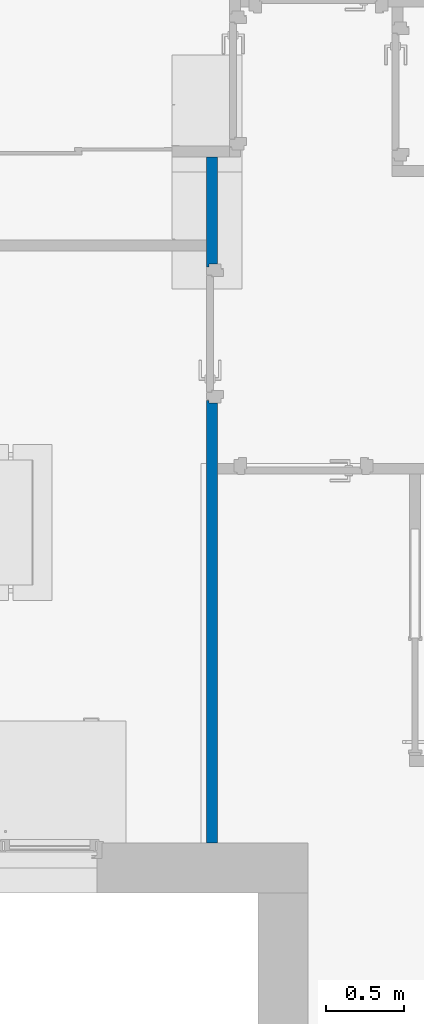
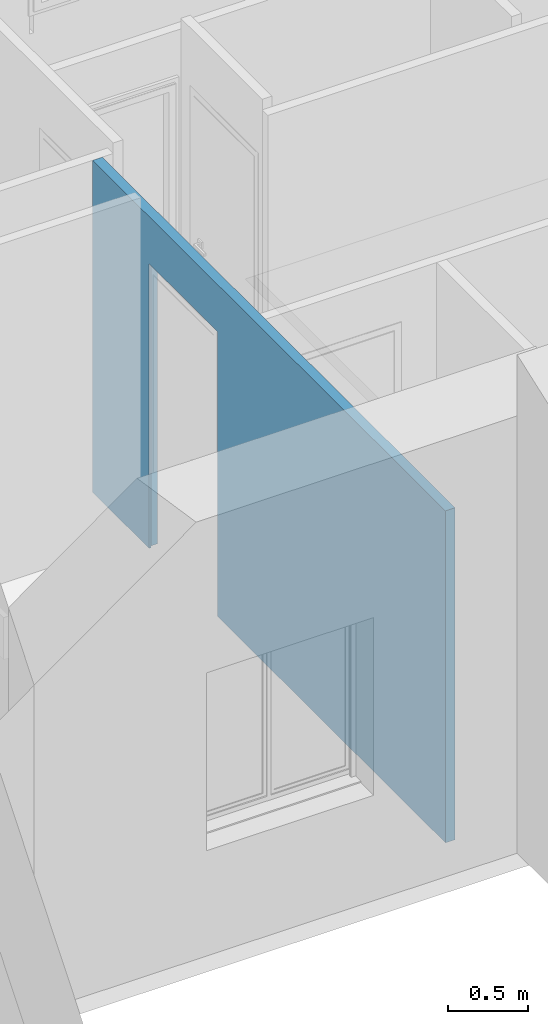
# One storey, part 30 of 61: 1 wall, 1 opening.
"""IFC2X3 building model written with IfcOpenShell, lengths in metres."""

from ifc_helpers import new_model, entity, si_unit, converted_unit, derived_unit, direction, frame, frame_2d, origin, place, context, subcontext, project, spatial, rectangle, extrude, faceted_brep, material, layer, layer_set, layer_usage, type_object, element, save


model = new_model("IFC2X3")

# Units and contexts
model_context = context("Model", 3, precision=1e-05, world=origin(), true_north=direction((6.12303176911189e-17, 1.0)))
body_context = subcontext(model_context, "Body", "Model", "MODEL_VIEW")
ifc_project = project(units=[si_unit("LENGTHUNIT", "METRE"), si_unit("AREAUNIT", "SQUARE_METRE"), si_unit("VOLUMEUNIT", "CUBIC_METRE"), converted_unit("PLANEANGLEUNIT", "DEGREE", entity("IfcRatioMeasure", 0.0174532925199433), si_unit("PLANEANGLEUNIT", "RADIAN"), dimensions=[0, 0, 0, 0, 0, 0, 0]), si_unit("MASSUNIT", "GRAM", prefix="KILO"), derived_unit("MASSDENSITYUNIT", [(si_unit("MASSUNIT", "GRAM", prefix="KILO"), 1), (si_unit("LENGTHUNIT", "METRE"), -3)]), si_unit("TIMEUNIT", "SECOND"), si_unit("FREQUENCYUNIT", "HERTZ"), si_unit("THERMODYNAMICTEMPERATUREUNIT", "DEGREE_CELSIUS"), derived_unit("THERMALTRANSMITTANCEUNIT", [(si_unit("MASSUNIT", "GRAM", prefix="KILO"), 1), (si_unit("THERMODYNAMICTEMPERATUREUNIT", "KELVIN"), -1), (si_unit("TIMEUNIT", "SECOND"), -3)]), derived_unit("VOLUMETRICFLOWRATEUNIT", [(si_unit("LENGTHUNIT", "METRE"), 3), (si_unit("TIMEUNIT", "SECOND"), -1)]), si_unit("ELECTRICCURRENTUNIT", "AMPERE"), si_unit("ELECTRICVOLTAGEUNIT", "VOLT"), si_unit("POWERUNIT", "WATT"), si_unit("FORCEUNIT", "NEWTON", prefix="KILO"), si_unit("ILLUMINANCEUNIT", "LUX"), si_unit("LUMINOUSFLUXUNIT", "LUMEN"), si_unit("LUMINOUSINTENSITYUNIT", "CANDELA"), derived_unit("USERDEFINED", [(si_unit("MASSUNIT", "GRAM", prefix="KILO"), -1), (si_unit("LENGTHUNIT", "METRE"), -2), (si_unit("TIMEUNIT", "SECOND"), 3), (si_unit("LUMINOUSFLUXUNIT", "LUMEN"), 1)]), derived_unit("LINEARVELOCITYUNIT", [(si_unit("LENGTHUNIT", "METRE"), 1), (si_unit("TIMEUNIT", "SECOND"), -1)]), si_unit("PRESSUREUNIT", "PASCAL"), derived_unit("USERDEFINED", [(si_unit("LENGTHUNIT", "METRE"), -2), (si_unit("MASSUNIT", "GRAM", prefix="KILO"), 1), (si_unit("TIMEUNIT", "SECOND"), -2)])], contexts=[model_context])

# Site, building, storey
site_placement = place(None, origin())
site = spatial("IfcSite", under=ifc_project, at=site_placement, Name="Surface", CompositionType="ELEMENT")
building_placement = place(site_placement, origin())
building = spatial("IfcBuilding", under=site, at=building_placement, CompositionType="ELEMENT")
storey_placement = place(building_placement, frame((0.0, 0.0, 2.82)))
storey = spatial("IfcBuildingStorey", under=building, at=storey_placement, Name="ETAGE", CompositionType="ELEMENT", Elevation=2.82)

# Wall, opening
ifc_material = material(Name="Peinture - Blanc")
ifc_layer = layer(ifc_material, 0.07)
ifc_layer_set = layer_set([ifc_layer], Name="Mur de base:Int.  Platre 70 mm en blanc")
ifc_layer_usage = layer_usage(ifc_layer_set, "AXIS2", "POSITIVE", -0.035)
wall_type = type_object("IfcWallType", Name="Mur de base:Int.  Platre 70 mm en blanc", PredefinedType="STANDARD", material=ifc_layer_set)
wall_placement = place(storey_placement, frame((79.7960189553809, 84.2475239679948, 0.0), z_axis=(0.0, 0.0, 1.0), x_axis=(0.0, 1.0, 0.0)))
wall = element("IfcWallStandardCase", 1, at=wall_placement, inside=storey, type_object=wall_type, material=ifc_layer_usage, Name="Mur de base:Int.  Platre 70 mm en blanc", ObjectType="Mur de base:Int.  Platre 70 mm en blanc", context=body_context, shape_type="SweptSolid", body=[
    extrude(rectangle(XDim=4.39000000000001, YDim=0.0699999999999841, at=frame_2d((2.195, 0.0), x_axis=(-1.0, 0.0))), origin(), (0.0, 0.0, 1.0), 2.52),
])
opening_placement = place(wall_placement, frame((2.81499999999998, 0.214999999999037, 0.0), z_axis=(0.0, 0.0, 1.0), x_axis=(0.0, -1.0, 0.0)))
element("IfcOpeningElement", 2, at=opening_placement, cuts=wall, Name="Mur de base:Int.  Platre 70 mm en blanc", ObjectType="Opening", context=body_context, shape_type="Brep", body=[
    faceted_brep([(0.0, 0.810000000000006, 2.09999999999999), (0.0, 0.810000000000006, 0.0), (0.0, 0.0799999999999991, 0.0), (0.0, 0.0799999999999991, 2.09999999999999), (0.893399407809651, 0.810000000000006, 2.09999999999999), (0.893399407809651, 0.0799999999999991, 2.09999999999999), (0.893399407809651, 0.0799999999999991, 0.0), (0.893399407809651, 0.810000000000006, 0.0), (0.179999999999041, 0.810000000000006, 2.09999999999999), (0.179999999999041, 0.810000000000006, 0.0), (0.179999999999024, 0.871999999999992, 0.0), (0.194999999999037, 0.871999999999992, 0.0), (0.194999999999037, 0.890000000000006, 0.0), (0.272999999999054, 0.890000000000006, 0.0), (0.272999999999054, 0.860999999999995, 0.0), (0.249999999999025, 0.860999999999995, 0.0), (0.249999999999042, 0.810000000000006, 0.0), (0.249999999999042, 0.0799999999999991, 0.0), (0.249999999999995, 0.0290000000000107, 0.0), (0.272999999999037, 0.0290000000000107, 0.0), (0.272999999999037, 0.0, 0.0), (0.194999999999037, 0.0, 0.0), (0.194999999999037, 0.0180000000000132, 0.0), (0.179999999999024, 0.0180000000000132, 0.0), (0.179999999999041, 0.0800000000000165, 0.0), (0.179999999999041, 0.0800000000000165, 2.09999999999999), (0.249999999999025, 0.860999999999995, 2.15099999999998), (0.249999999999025, 0.0290000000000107, 2.15099999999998), (0.249999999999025, 0.0799999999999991, 2.09999999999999), (0.249999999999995, 0.069000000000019, 2.09999999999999), (0.249999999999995, 0.0690000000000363, 2.11099999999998), (0.250000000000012, 0.821000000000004, 2.11099999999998), (0.249999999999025, 0.820999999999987, 2.09999999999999), (0.249999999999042, 0.810000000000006, 2.09999999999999), (0.179999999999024, 0.0180000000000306, 2.16199999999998), (0.179999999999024, 0.87200000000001, 2.16199999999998), (0.250499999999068, 0.821000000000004, 2.09999999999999), (0.250499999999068, 0.821000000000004, 2.11099999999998), (0.250499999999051, 0.069000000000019, 2.11099999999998), (0.250499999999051, 0.069000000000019, 2.09999999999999), (0.250499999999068, 0.0800000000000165, 2.09999999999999), (0.250499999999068, 0.810000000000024, 2.09999999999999), (0.194999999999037, 0.87200000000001, 2.16199999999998), (0.194999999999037, 0.0180000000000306, 2.16199999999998), (0.194999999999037, 0.0, 2.17999999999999), (0.194999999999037, 0.890000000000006, 2.17999999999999), (0.272999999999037, 0.890000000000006, 2.17999999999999), (0.272999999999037, 0.0, 2.17999999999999), (0.272999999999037, 0.0290000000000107, 2.15099999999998), (0.272999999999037, 0.860999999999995, 2.15099999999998)], [[[0, 1, 2, 3]], [[4, 5, 6, 7]], [[0, 8, 9, 1]], [[1, 9, 10, 11, 12, 13, 14, 15, 16, 7, 6, 17, 18, 19, 20, 21, 22, 23, 24, 2]], [[2, 24, 25, 3]], [[3, 25, 8, 0]], [[15, 26, 27, 18, 17, 28, 29, 30, 31, 32, 33, 16]], [[9, 8, 25, 24, 23, 34, 35, 10]], [[36, 32, 31, 37]], [[38, 30, 29, 39]], [[37, 31, 30, 38]], [[39, 40, 41, 36, 37, 38]], [[41, 33, 32, 36]], [[10, 35, 42, 11]], [[11, 42, 43, 22, 21, 44, 45, 12]], [[12, 45, 46, 13]], [[13, 46, 47, 20, 19, 48, 49, 14]], [[14, 49, 26, 15]], [[34, 43, 42, 35]], [[44, 47, 46, 45]], [[26, 49, 48, 27]], [[23, 22, 43, 34]], [[21, 20, 47, 44]], [[27, 48, 19, 18]], [[39, 29, 28, 40]], [[4, 41, 40, 5]], [[5, 40, 28, 17, 6]], [[7, 16, 33, 41, 4]]]),
])

save(model, "model.ifc")
